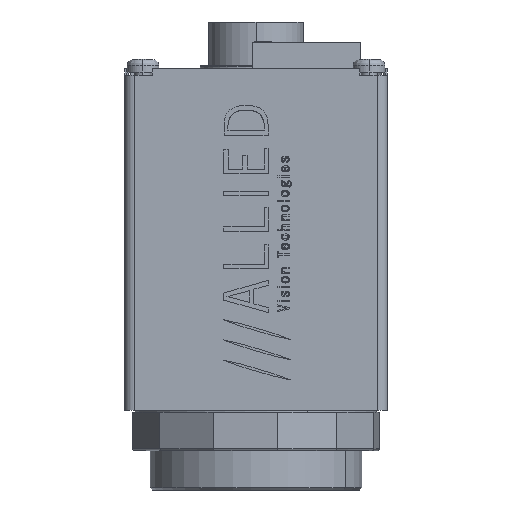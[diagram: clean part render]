
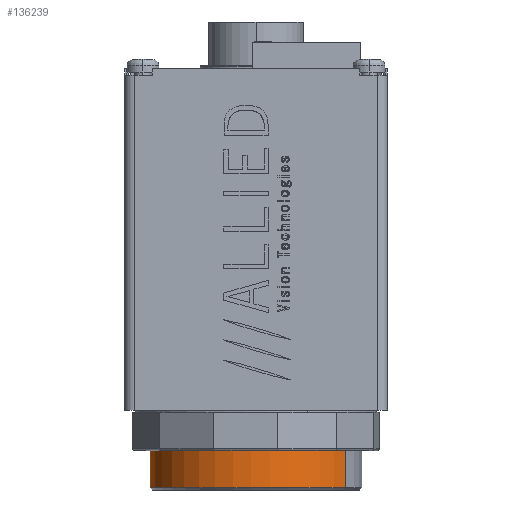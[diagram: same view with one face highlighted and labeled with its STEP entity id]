
A CAD part, left-side view. The second image highlights one B-rep face of the part: STEP entity #136239.
In plain terms, the highlighted cylindrical face has radius 13.335 mm (diameter 26.67 mm), a partial arc.
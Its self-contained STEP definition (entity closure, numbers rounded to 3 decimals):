
#511 = FACE_OUTER_BOUND ( 'NONE', #86259, .T. ) ;
#662 = DIRECTION ( 'NONE',  ( 1., 0., 0. ) ) ;
#5849 = DIRECTION ( 'NONE',  ( 0., 0., 1. ) ) ;
#14385 = CARTESIAN_POINT ( 'NONE',  ( -13.335, 0., 7.214 ) ) ;
#16614 = EDGE_CURVE ( 'NONE', #143450, #122591, #123027, .T. ) ;
#20497 = CYLINDRICAL_SURFACE ( 'NONE', #110495, 13.335 ) ;
#24101 = DIRECTION ( 'NONE',  ( 0., 0., 1. ) ) ;
#34510 = VERTEX_POINT ( 'NONE', #142474 ) ;
#35372 = EDGE_CURVE ( 'NONE', #34510, #57207, #55138, .T. ) ;
#36810 = CARTESIAN_POINT ( 'NONE',  ( 13.335, 0., 13.386 ) ) ;
#55063 = DIRECTION ( 'NONE',  ( 1., 0., 0. ) ) ;
#55138 = CIRCLE ( 'NONE', #150335, 13.335 ) ;
#55288 = DIRECTION ( 'NONE',  ( 0., 0., 1. ) ) ;
#55462 = CARTESIAN_POINT ( 'NONE',  ( 0., 0., 7.214 ) ) ;
#57207 = VERTEX_POINT ( 'NONE', #14385 ) ;
#63780 = ORIENTED_EDGE ( 'NONE', *, *, #35372, .T. ) ;
#77702 = CARTESIAN_POINT ( 'NONE',  ( -13.335, 0., 13.386 ) ) ;
#79614 = CARTESIAN_POINT ( 'NONE',  ( -13.335, 0., 7.214 ) ) ;
#81579 = VECTOR ( 'NONE', #5849, 1000. ) ;
#82595 = AXIS2_PLACEMENT_3D ( 'NONE', #149533, #148945, #148371 ) ;
#84110 = CARTESIAN_POINT ( 'NONE',  ( 0., 0., 7.214 ) ) ;
#86259 = EDGE_LOOP ( 'NONE', ( #63780, #91009, #119122, #178820 ) ) ;
#86604 = EDGE_CURVE ( 'NONE', #34510, #122591, #154405, .T. ) ;
#91009 = ORIENTED_EDGE ( 'NONE', *, *, #173490, .T. ) ;
#110495 = AXIS2_PLACEMENT_3D ( 'NONE', #84110, #125502, #662 ) ;
#115874 = VECTOR ( 'NONE', #24101, 1000. ) ;
#119122 = ORIENTED_EDGE ( 'NONE', *, *, #16614, .T. ) ;
#122591 = VERTEX_POINT ( 'NONE', #36810 ) ;
#123027 = CIRCLE ( 'NONE', #82595, 13.335 ) ;
#125502 = DIRECTION ( 'NONE',  ( 0., 0., 1. ) ) ;
#136239 = ADVANCED_FACE ( 'NONE', ( #511 ), #20497, .T. ) ;
#142474 = CARTESIAN_POINT ( 'NONE',  ( 13.335, 0., 7.214 ) ) ;
#143450 = VERTEX_POINT ( 'NONE', #77702 ) ;
#148371 = DIRECTION ( 'NONE',  ( 1., 0., 0. ) ) ;
#148945 = DIRECTION ( 'NONE',  ( 0., 0., -1. ) ) ;
#149533 = CARTESIAN_POINT ( 'NONE',  ( 0., 0., 13.386 ) ) ;
#150335 = AXIS2_PLACEMENT_3D ( 'NONE', #55462, #55288, #55063 ) ;
#152210 = LINE ( 'NONE', #79614, #115874 ) ;
#154405 = LINE ( 'NONE', #171233, #81579 ) ;
#171233 = CARTESIAN_POINT ( 'NONE',  ( 13.335, 0., 7.214 ) ) ;
#173490 = EDGE_CURVE ( 'NONE', #57207, #143450, #152210, .T. ) ;
#178820 = ORIENTED_EDGE ( 'NONE', *, *, #86604, .F. ) ;
